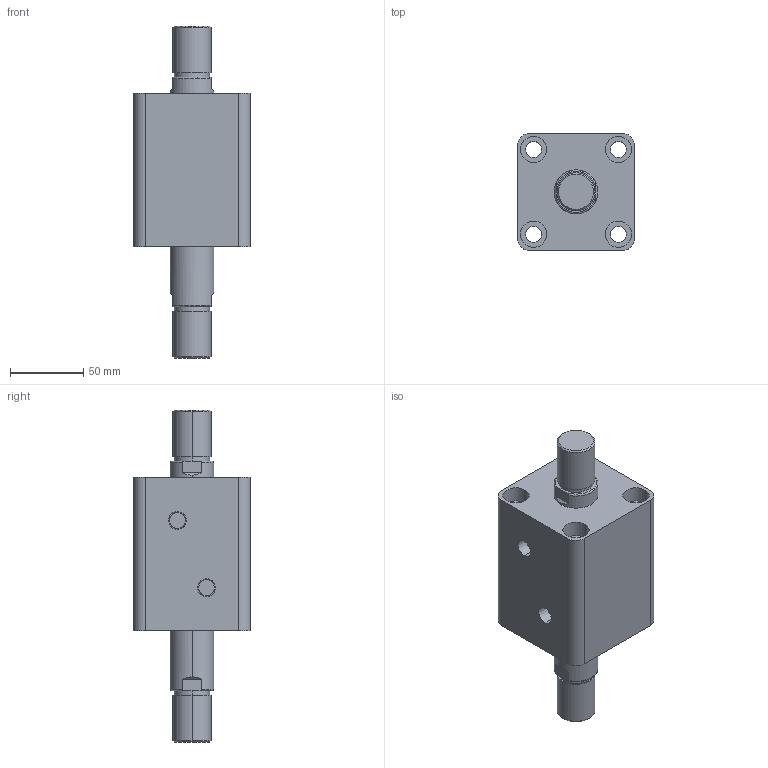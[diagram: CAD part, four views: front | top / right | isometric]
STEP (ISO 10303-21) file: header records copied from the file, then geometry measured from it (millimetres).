
FILE_DESCRIPTION (( 'STEP AP203' ), '1' );
FILE_NAME ('HTB-SW50-30W.STEP', '2019-10-07T09:19:15', ( '微软用户' ), ( '微软中国' ), 'SwSTEP 2.0', 'SolidWorks 2012', '' );
FILE_SCHEMA (( 'CONFIG_CONTROL_DESIGN' ));
Length unit declared in the file: millimetre
Products named in the file (3): HTB-SW50-30W; HTB-SW50-30W活塞杆; HTB-SW50-30掛极
Assembly tree (2 placements, depth 2):
  HTB-SW50-30W
    HTB-SW50-30掛极
    HTB-SW50-30W活塞杆
Bounding box: 80 x 80 x 227 mm (x, y, z)
Volume: 645416.2 mm3; surface area: 101249.6 mm2
Topology: 2 solids, 2 shells, 108 faces, 240 edges, 156 vertices
Faces by surface type: cylinder 52, plane 36, torus 12, cone 8
Entity records: 3449 total; most frequent: CARTESIAN_POINT 629, DIRECTION 586, ORIENTED_EDGE 480, AXIS2_PLACEMENT_3D 249, EDGE_CURVE 240, VERTEX_POINT 156, EDGE_LOOP 138, CIRCLE 136
